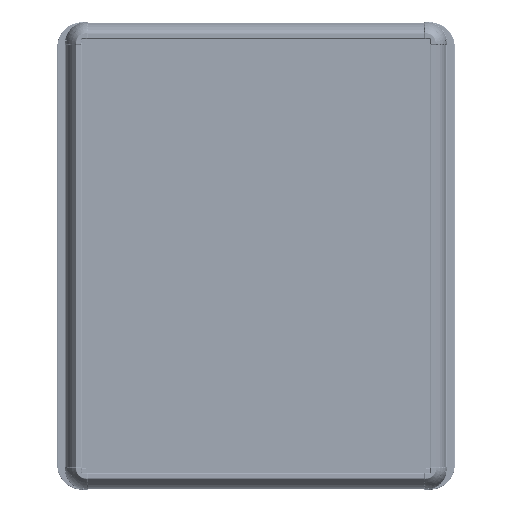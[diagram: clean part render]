
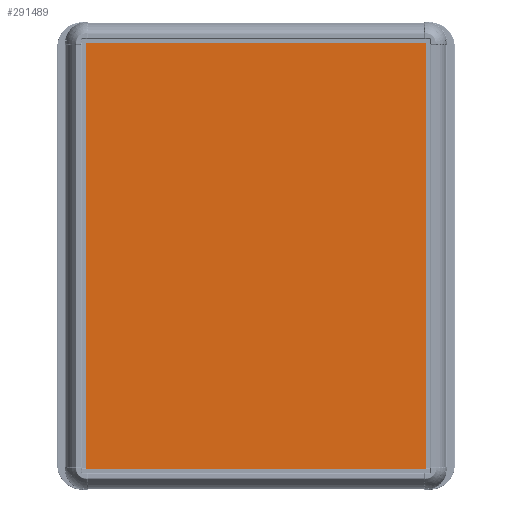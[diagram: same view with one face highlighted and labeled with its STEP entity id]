
A CAD part, top view. The second image highlights one B-rep face of the part: STEP entity #291489.
In plain terms, the highlighted planar face has unit normal (0, 0, 1).
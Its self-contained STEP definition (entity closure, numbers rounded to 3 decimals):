
#2552 = ORIENTED_EDGE ( 'NONE', *, *, #174713, .T. ) ;
#4461 = ORIENTED_EDGE ( 'NONE', *, *, #161799, .T. ) ;
#10670 = LINE ( 'NONE', #82809, #84648 ) ;
#10840 = VECTOR ( 'NONE', #238378, 1000. ) ;
#13360 = VERTEX_POINT ( 'NONE', #170565 ) ;
#17185 = CARTESIAN_POINT ( 'NONE',  ( -200., 250., 2. ) ) ;
#21726 = DIRECTION ( 'NONE',  ( 0., 0., 1. ) ) ;
#36779 = LINE ( 'NONE', #239597, #213072 ) ;
#59298 = DIRECTION ( 'NONE',  ( 0., -1., 0. ) ) ;
#82809 = CARTESIAN_POINT ( 'NONE',  ( -200., -250., 2. ) ) ;
#83689 = VECTOR ( 'NONE', #269655, 1000. ) ;
#84250 = ORIENTED_EDGE ( 'NONE', *, *, #85333, .T. ) ;
#84648 = VECTOR ( 'NONE', #266078, 1000. ) ;
#85333 = EDGE_CURVE ( 'NONE', #99752, #281114, #204903, .T. ) ;
#99752 = VERTEX_POINT ( 'NONE', #289312 ) ;
#108110 = CARTESIAN_POINT ( 'NONE',  ( 200., -250., 2. ) ) ;
#124436 = ORIENTED_EDGE ( 'NONE', *, *, #293532, .T. ) ;
#146577 = LINE ( 'NONE', #256456, #10840 ) ;
#161799 = EDGE_CURVE ( 'NONE', #13360, #276449, #10670, .T. ) ;
#170565 = CARTESIAN_POINT ( 'NONE',  ( -200., -250., 2. ) ) ;
#174713 = EDGE_CURVE ( 'NONE', #281114, #13360, #36779, .T. ) ;
#180875 = FACE_OUTER_BOUND ( 'NONE', #244813, .T. ) ;
#204903 = LINE ( 'NONE', #17185, #83689 ) ;
#205536 = AXIS2_PLACEMENT_3D ( 'NONE', #275687, #21726, #254569 ) ;
#213072 = VECTOR ( 'NONE', #59298, 1000. ) ;
#232039 = PLANE ( 'NONE',  #205536 ) ;
#238378 = DIRECTION ( 'NONE',  ( 0., 1., 0. ) ) ;
#239597 = CARTESIAN_POINT ( 'NONE',  ( -200., 250., 2. ) ) ;
#244813 = EDGE_LOOP ( 'NONE', ( #124436, #84250, #2552, #4461 ) ) ;
#254569 = DIRECTION ( 'NONE',  ( 1., 0., 0. ) ) ;
#256456 = CARTESIAN_POINT ( 'NONE',  ( 200., 250., 2. ) ) ;
#266078 = DIRECTION ( 'NONE',  ( 1., 0., 0. ) ) ;
#269655 = DIRECTION ( 'NONE',  ( -1., 0., 0. ) ) ;
#275687 = CARTESIAN_POINT ( 'NONE',  ( 0., 0., 2. ) ) ;
#276449 = VERTEX_POINT ( 'NONE', #108110 ) ;
#277703 = CARTESIAN_POINT ( 'NONE',  ( -200., 250., 2. ) ) ;
#281114 = VERTEX_POINT ( 'NONE', #277703 ) ;
#289312 = CARTESIAN_POINT ( 'NONE',  ( 200., 250., 2. ) ) ;
#291489 = ADVANCED_FACE ( 'NONE', ( #180875 ), #232039, .T. ) ;
#293532 = EDGE_CURVE ( 'NONE', #276449, #99752, #146577, .T. ) ;
